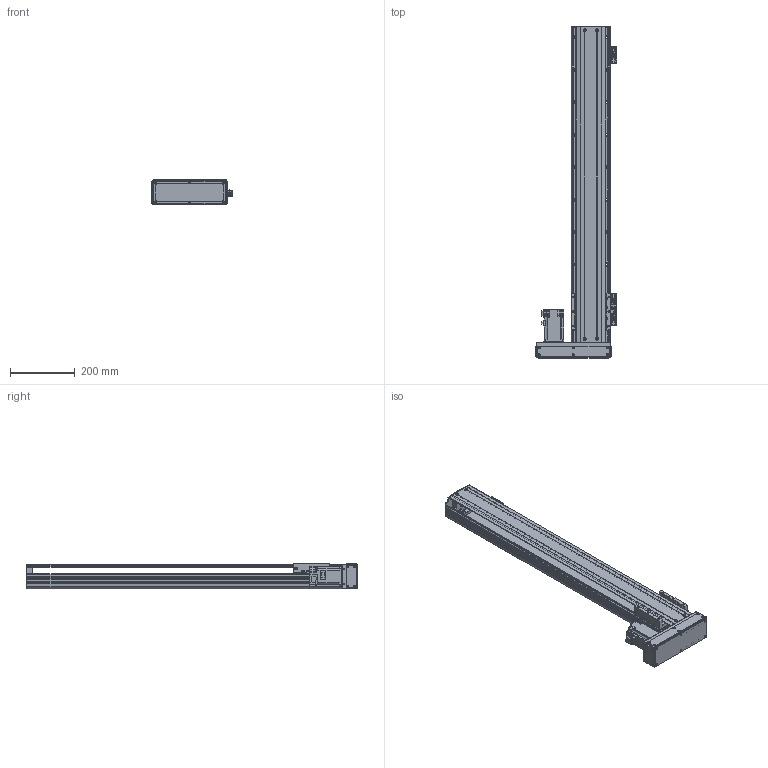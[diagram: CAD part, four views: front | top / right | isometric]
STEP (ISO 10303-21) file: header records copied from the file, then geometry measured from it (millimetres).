
FILE_DESCRIPTION(/* description */ ('MANUFACTURE'),/* implementation_level */ '2;1');
FILE_NAME(/* name */ '\\192.168.0.160\disk1\HAN SHIN Master\B-설계부문\C-표준\B-2024년\BC02-표준도면\+로봇 개선표준도면\홈페이지 표준 도면\홈페이지 최종 작업 폴더\3D\HR\HR120\HR120병렬\좌병렬\HR120-L40-N-0800-R10.stp',/* time_stamp */ '2025-01-20T17:49:07+09:00',/* author */ ('user'),/* organization */ (''),/* preprocessor_version */ 'ST-DEVELOPER v18.1',/* originating_system */ 'Autodesk Inventor 2022',/* authorisation */ 'LIP');
FILE_SCHEMA (('CONFIG_CONTROL_DESIGN'));
Products named in the file (19): HG120-L40-N-0500-R10; HR120 S BASE; HR(HG) 120,130 FRONT BLOCK; HR(HG) 120,130 FRONT BLOCK_1; HR120 FRONT COVER; HG5UPCOV003; HR120 SENSOR DOG; HG120 TABLE-N; HR120 STOPPER; HR120 LR MOTOR PLATE (400W)-사출; MOTOR PLATE - 200W; hg-kr43_; 화살표; HR120 LR BELT COVER; HR160 ACRYL COVER - 1; HR160 ACRYL COVER - 1_1; HR160 ACRYL COVER - 1_2; SENSOR BRK(EE-SX674A); EE_SX674A
Assembly tree (24 placements, depth 2):
  HG120-L40-N-0500-R10
    HR120 S BASE
    HR(HG) 120,130 FRONT BLOCK
    HR(HG) 120,130 FRONT BLOCK_1
    HR120 FRONT COVER
    SENSOR BRK(EE-SX674A)  x3
    HG5UPCOV003
    HR120 SENSOR DOG
    HG120 TABLE-N
    EE_SX674A  x3
    HR120 STOPPER
    HR120 LR MOTOR PLATE (400W)-사출
    MOTOR PLATE - 200W
    hg-kr43_
    화살표  x2
    HR120 LR BELT COVER
    HR160 ACRYL COVER - 1
    HR160 ACRYL COVER - 1_1
    HR160 ACRYL COVER - 1_2  x2
Bounding box: 250 x 1023 x 80 mm (x, y, z)
Volume: 2882387.1 mm3; surface area: 1183074.8 mm2
Topology: 24 solids, 24 shells, 3119 faces, 8966 edges, 5925 vertices
Faces by surface type: plane 2217, cylinder 756, cone 146
Full cylindrical faces by diameter (mm): 2.459 x50, 3 x4, 3.242 x48, 3.4 x20, 3.5 x6, 4.134 x46, 4.5 x56, 4.917 x6, 5 x26, 5.5 x35, 5.8 x4, 5.9 x8, 6 x4, 6.6 x2, 7 x4, 7.5 x16, 8 x4, 9 x6, 9.5 x23, 14 x1, 17 x1, 20 x1, 22 x1, 24 x1, 28 x1, 32 x2, 33.7 x1, 50 x2
Entity records: 100068 total; most frequent: CARTESIAN_POINT 20531, ORIENTED_EDGE 16680, DIRECTION 15417, EDGE_CURVE 8340, LINE 6597, VECTOR 6597, VERTEX_POINT 5577, AXIS2_PLACEMENT_3D 4410
